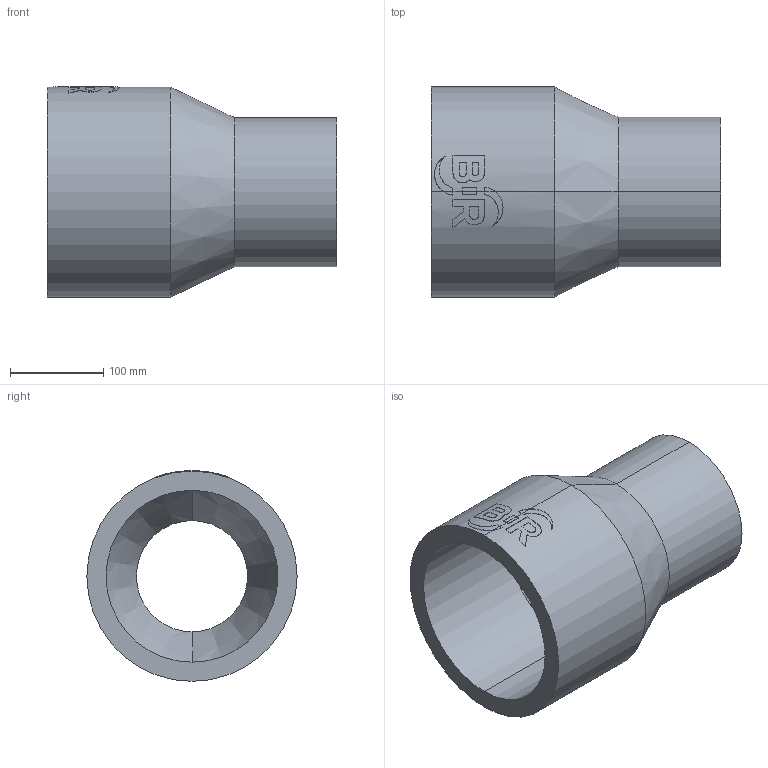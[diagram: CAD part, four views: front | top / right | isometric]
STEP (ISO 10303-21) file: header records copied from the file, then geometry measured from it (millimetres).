
FILE_DESCRIPTION (( 'STEP AP214' ), '1' );
FILE_NAME ('2323201715.STEP', '2018-07-20T10:32:13', ( '' ), ( '' ), 'SwSTEP 2.0', 'SolidWorks 2017', '' );
FILE_SCHEMA (( 'AUTOMOTIVE_DESIGN' ));
Length unit declared in the file: millimetre
Products named in the file (1): 2323201715
Bounding box: 310 x 225 x 225.46 mm (x, y, z)
Volume: 3552819 mm3; surface area: 368985.7 mm2
Topology: 1 solids, 1 shells, 63 faces, 160 edges, 104 vertices
Faces by surface type: cylinder 31, plane 28, cone 4
Entity records: 3325 total; most frequent: CARTESIAN_POINT 1116, ORIENTED_EDGE 320, DIRECTION 296, EDGE_CURVE 160, AXIS2_PLACEMENT_3D 112, VERTEX_POINT 104, LINE 72, VECTOR 72
